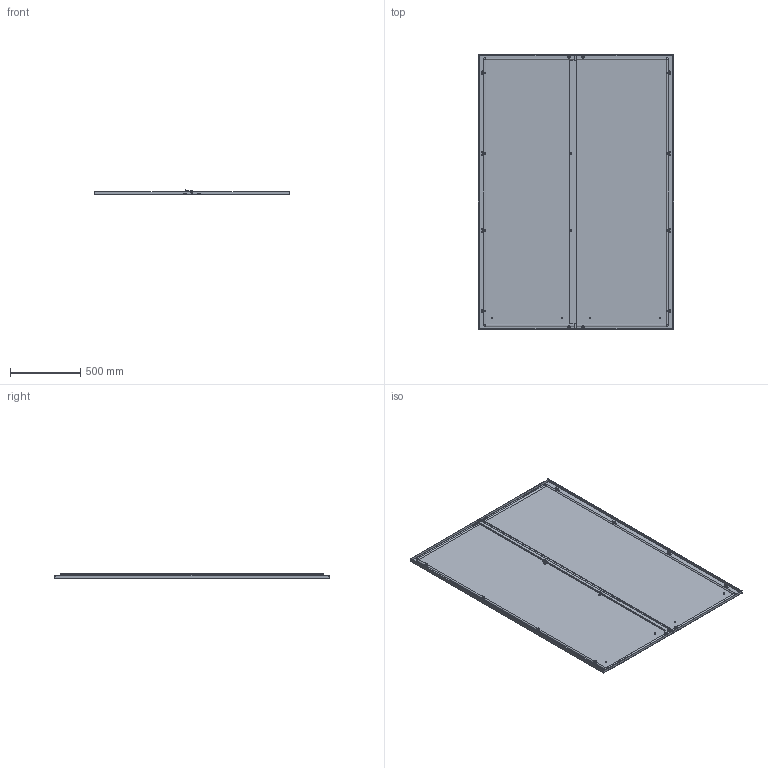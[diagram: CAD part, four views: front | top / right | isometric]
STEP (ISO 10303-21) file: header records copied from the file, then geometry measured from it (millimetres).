
FILE_DESCRIPTION(('Open CASCADE Model'),'2;1');
FILE_NAME('Open CASCADE Shape Model','2025-02-10T17:36:35',('Author'),( 'Open CASCADE'),'Open CASCADE STEP processor 7.8','Open CASCADE 7.8' ,'Unknown');
FILE_SCHEMA(('AUTOMOTIVE_DESIGN { 1 0 10303 214 1 1 1 1 }'));
Length unit declared in the file: millimetre
Products named in the file (19): Compound1; Compound2; Compound3; Solid1; Solid2; Solid3; Compound4; Compound5; Solid4; Compound6; Solid5; Solid6; Solid7; Solid8; Solid9; Solid10; Solid11; Solid12; Solid13
Assembly tree (67 placements, depth 4):
  Compound1
    Compound2
      Compound3
        Solid1
        Solid2  x3
      Solid3
    Compound4
      Compound5
        Solid4
        Solid2  x3
      Solid3
    Compound6  x2
      Solid5
      Solid6
    Solid7
    Solid8  x14
    Solid9  x2
    Solid10  x2
    Solid11  x12
    Solid12  x6
    Solid13  x12
Bounding box: 1394 x 1955 x 36.26 mm (x, y, z)
Volume: 5402454.9 mm3; surface area: 6562894.9 mm2
Topology: 63 solids, 63 shells, 1828 faces, 4488 edges, 2810 vertices
Faces by surface type: plane 1351, cylinder 237, cone 164, torus 44, bspline 28, revolution 4
Full cylindrical faces by diameter (mm): 4.92 x14, 5 x26, 6 x36, 6.5 x2, 7.5 x8, 8 x24, 9 x4, 9.1 x2, 10 x16, 11.57 x14
Entity records: 13696 total; most frequent: CARTESIAN_POINT 2801, DIRECTION 2149, ORIENTED_EDGE 2146, EDGE_CURVE 1073, LINE 763, VECTOR 763, AXIS2_PLACEMENT_3D 692, VERTEX_POINT 673
